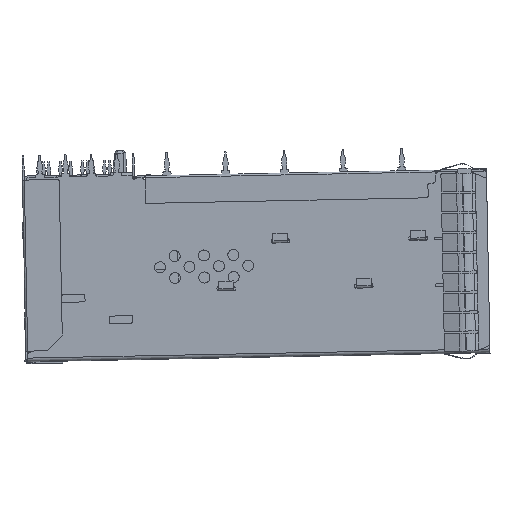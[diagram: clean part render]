
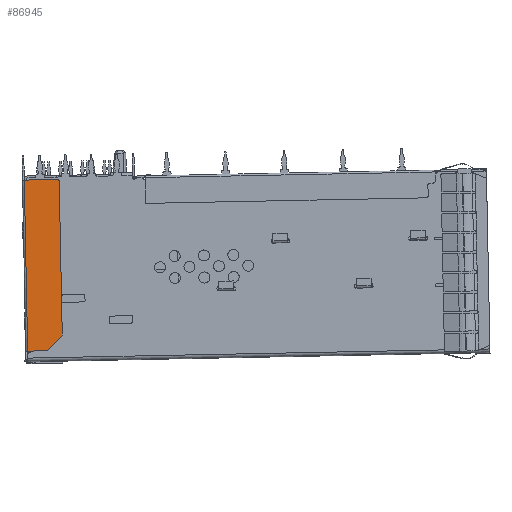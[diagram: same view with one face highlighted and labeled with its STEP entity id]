
A CAD part, left-side view. The second image highlights one B-rep face of the part: STEP entity #86945.
In plain terms, the highlighted planar face has unit normal (-1, 0, 0).
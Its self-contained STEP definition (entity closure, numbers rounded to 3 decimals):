
#4588=DIRECTION('',(0.,1.,-0.02));
#4589=VECTOR('',#4588,4.5);
#4590=CARTESIAN_POINT('',(43.2,0.725,23.326));
#4591=LINE('',#4590,#4589);
#25897=DIRECTION('',(0.,-0.02,-1.));
#25898=VECTOR('',#25897,23.3);
#25899=CARTESIAN_POINT('',(43.2,5.224,23.237));
#25900=LINE('',#25899,#25898);
#25905=CARTESIAN_POINT('',(43.2,0.72,23.076));
#25906=DIRECTION('',(1.,0.,0.));
#25907=DIRECTION('',(0.,0.02,1.));
#25908=AXIS2_PLACEMENT_3D('',#25905,#25906,#25907);
#25910=DIRECTION('',(0.,-0.02,-1.));
#25911=VECTOR('',#25910,20.946);
#25912=CARTESIAN_POINT('',(43.2,0.47,23.081));
#25913=LINE('',#25912,#25911);
#25914=CARTESIAN_POINT('',(43.2,0.306,2.134));
#25915=DIRECTION('',(1.,0.,0.));
#25916=DIRECTION('',(0.,-1.,0.02));
#25917=AXIS2_PLACEMENT_3D('',#25914,#25915,#25916);
#25919=DIRECTION('',(0.,0.693,-0.721));
#25920=VECTOR('',#25919,2.725);
#25921=CARTESIAN_POINT('',(43.2,0.125,1.961));
#25922=LINE('',#25921,#25920);
#26002=DIRECTION('',(0.,-1.,0.02));
#26003=VECTOR('',#26002,2.75);
#26004=CARTESIAN_POINT('',(43.2,4.763,
-0.058));
#26005=LINE('',#26004,#26003);
#42317=CARTESIAN_POINT('',(43.2,0.725,23.326));
#42318=VERTEX_POINT('',#42317);
#42319=CARTESIAN_POINT('',(43.2,5.224,23.237));
#42320=VERTEX_POINT('',#42319);
#48492=CARTESIAN_POINT('',(43.2,4.763,
-0.058));
#48493=VERTEX_POINT('',#48492);
#48494=CARTESIAN_POINT('',(43.2,0.47,23.081));
#48495=VERTEX_POINT('',#48494);
#48496=CARTESIAN_POINT('',(43.2,0.056,2.139));
#48497=VERTEX_POINT('',#48496);
#48498=CARTESIAN_POINT('',(43.2,0.125,1.961));
#48499=VERTEX_POINT('',#48498);
#48500=CARTESIAN_POINT('',(43.2,2.014,-0.004));
#48501=VERTEX_POINT('',#48500);
#86926=CARTESIAN_POINT('',(43.2,2.619,11.636));
#86927=DIRECTION('',(1.,0.,0.));
#86928=DIRECTION('',(0.,-1.,0.02));
#86929=AXIS2_PLACEMENT_3D('',#86926,#86927,#86928);
#86930=PLANE('',#86929);
#86931=ORIENTED_EDGE('',*,*,#86918,.F.);
#86932=ORIENTED_EDGE('',*,*,#57297,.F.);
#86934=ORIENTED_EDGE('',*,*,#86933,.T.);
#86936=ORIENTED_EDGE('',*,*,#86935,.T.);
#86938=ORIENTED_EDGE('',*,*,#86937,.T.);
#86940=ORIENTED_EDGE('',*,*,#86939,.T.);
#86942=ORIENTED_EDGE('',*,*,#86941,.F.);
#86943=EDGE_LOOP('',(#86931,#86932,#86934,#86936,#86938,#86940,#86942));
#86944=FACE_OUTER_BOUND('',#86943,.F.);
#25909=CIRCLE('',#25908,0.25);
#25918=CIRCLE('',#25917,0.25);
#57297=EDGE_CURVE('',#42318,#42320,#4591,.T.);
#86918=EDGE_CURVE('',#42320,#48493,#25900,.T.);
#86933=EDGE_CURVE('',#42318,#48495,#25909,.T.);
#86935=EDGE_CURVE('',#48495,#48497,#25913,.T.);
#86937=EDGE_CURVE('',#48497,#48499,#25918,.T.);
#86939=EDGE_CURVE('',#48499,#48501,#25922,.T.);
#86941=EDGE_CURVE('',#48493,#48501,#26005,.T.);
#86945=ADVANCED_FACE('',(#86944),#86930,.F.);
